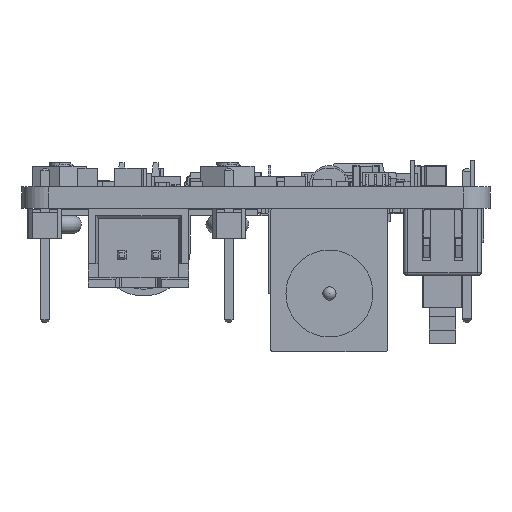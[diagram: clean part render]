
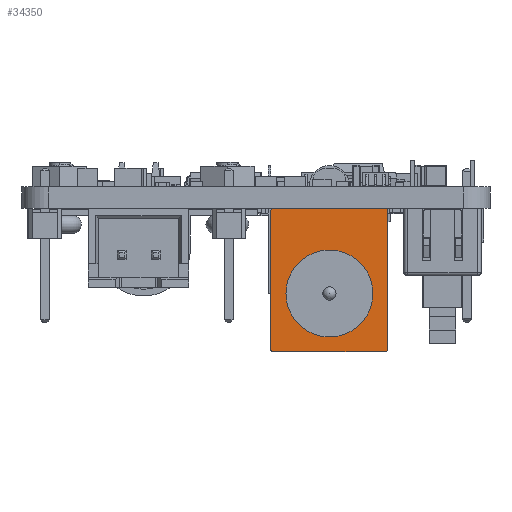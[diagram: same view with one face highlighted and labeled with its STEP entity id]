
A CAD part, left-side view. The second image highlights one B-rep face of the part: STEP entity #34350.
In plain terms, the highlighted planar face has unit normal (-1, 0, 0) as drawn and (0, 0, 1) by its records, which use the part's own axes.
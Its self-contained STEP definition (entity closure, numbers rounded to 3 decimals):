
#33947 = VERTEX_POINT('',#33948);
#33948 = CARTESIAN_POINT('',(4.18,0.,14.));
#33954 = EDGE_CURVE('',#33955,#33947,#33957,.T.);
#33955 = VERTEX_POINT('',#33956);
#33956 = CARTESIAN_POINT('',(-4.18,0.,14.));
#33957 = LINE('',#33958,#33959);
#33958 = CARTESIAN_POINT('',(4.38,0.,14.));
#33959 = VECTOR('',#33960,1.);
#33960 = DIRECTION('',(1.,0.,0.));
#34074 = EDGE_CURVE('',#34075,#34077,#34079,.T.);
#34075 = VERTEX_POINT('',#34076);
#34076 = CARTESIAN_POINT('',(4.38,0.2,14.));
#34077 = VERTEX_POINT('',#34078);
#34078 = CARTESIAN_POINT('',(4.38,10.53,14.));
#34079 = LINE('',#34080,#34081);
#34080 = CARTESIAN_POINT('',(4.38,10.73,14.));
#34081 = VECTOR('',#34082,1.);
#34082 = DIRECTION('',(0.,1.,0.));
#34269 = VERTEX_POINT('',#34270);
#34270 = CARTESIAN_POINT('',(-4.38,0.2,14.));
#34276 = EDGE_CURVE('',#34277,#34269,#34279,.T.);
#34277 = VERTEX_POINT('',#34278);
#34278 = CARTESIAN_POINT('',(-4.38,10.53,14.));
#34279 = LINE('',#34280,#34281);
#34280 = CARTESIAN_POINT('',(-4.38,0.,14.));
#34281 = VECTOR('',#34282,1.);
#34282 = DIRECTION('',(0.,-1.,0.));
#34314 = EDGE_CURVE('',#34315,#34317,#34319,.T.);
#34315 = VERTEX_POINT('',#34316);
#34316 = CARTESIAN_POINT('',(4.18,10.73,14.));
#34317 = VERTEX_POINT('',#34318);
#34318 = CARTESIAN_POINT('',(-4.18,10.73,14.));
#34319 = LINE('',#34320,#34321);
#34320 = CARTESIAN_POINT('',(-4.38,10.73,14.));
#34321 = VECTOR('',#34322,1.);
#34322 = DIRECTION('',(-1.,0.,0.));
#34350 = ADVANCED_FACE('',(#34351,#34362),#34396,.F.);
#34351 = FACE_BOUND('',#34352,.T.);
#34352 = EDGE_LOOP('',(#34353));
#34353 = ORIENTED_EDGE('',*,*,#34354,.F.);
#34354 = EDGE_CURVE('',#34355,#34355,#34357,.T.);
#34355 = VERTEX_POINT('',#34356);
#34356 = CARTESIAN_POINT('',(3.25,6.37,14.));
#34357 = CIRCLE('',#34358,3.25);
#34358 = AXIS2_PLACEMENT_3D('',#34359,#34360,#34361);
#34359 = CARTESIAN_POINT('',(0.,6.37,14.));
#34360 = DIRECTION('',(0.,0.,1.));
#34361 = DIRECTION('',(1.,0.,0.));
#34362 = FACE_BOUND('',#34363,.T.);
#34363 = EDGE_LOOP('',(#34364,#34365,#34372,#34373,#34380,#34381,#34388,
    #34389));
#34364 = ORIENTED_EDGE('',*,*,#33954,.T.);
#34365 = ORIENTED_EDGE('',*,*,#34366,.T.);
#34366 = EDGE_CURVE('',#33947,#34075,#34367,.T.);
#34367 = CIRCLE('',#34368,0.2);
#34368 = AXIS2_PLACEMENT_3D('',#34369,#34370,#34371);
#34369 = CARTESIAN_POINT('',(4.18,0.2,14.));
#34370 = DIRECTION('',(0.,0.,1.));
#34371 = DIRECTION('',(-1.,0.,0.));
#34372 = ORIENTED_EDGE('',*,*,#34074,.T.);
#34373 = ORIENTED_EDGE('',*,*,#34374,.T.);
#34374 = EDGE_CURVE('',#34077,#34315,#34375,.T.);
#34375 = CIRCLE('',#34376,0.2);
#34376 = AXIS2_PLACEMENT_3D('',#34377,#34378,#34379);
#34377 = CARTESIAN_POINT('',(4.18,10.53,14.));
#34378 = DIRECTION('',(0.,0.,1.));
#34379 = DIRECTION('',(-1.,0.,0.));
#34380 = ORIENTED_EDGE('',*,*,#34314,.T.);
#34381 = ORIENTED_EDGE('',*,*,#34382,.T.);
#34382 = EDGE_CURVE('',#34317,#34277,#34383,.T.);
#34383 = CIRCLE('',#34384,0.2);
#34384 = AXIS2_PLACEMENT_3D('',#34385,#34386,#34387);
#34385 = CARTESIAN_POINT('',(-4.18,10.53,14.));
#34386 = DIRECTION('',(0.,0.,1.));
#34387 = DIRECTION('',(-1.,0.,0.));
#34388 = ORIENTED_EDGE('',*,*,#34276,.T.);
#34389 = ORIENTED_EDGE('',*,*,#34390,.T.);
#34390 = EDGE_CURVE('',#34269,#33955,#34391,.T.);
#34391 = CIRCLE('',#34392,0.2);
#34392 = AXIS2_PLACEMENT_3D('',#34393,#34394,#34395);
#34393 = CARTESIAN_POINT('',(-4.18,0.2,14.));
#34394 = DIRECTION('',(0.,0.,1.));
#34395 = DIRECTION('',(-1.,0.,0.));
#34396 = PLANE('',#34397);
#34397 = AXIS2_PLACEMENT_3D('',#34398,#34399,#34400);
#34398 = CARTESIAN_POINT('',(0.,0.,14.));
#34399 = DIRECTION('',(0.,0.,-1.));
#34400 = DIRECTION('',(-1.,0.,0.));
